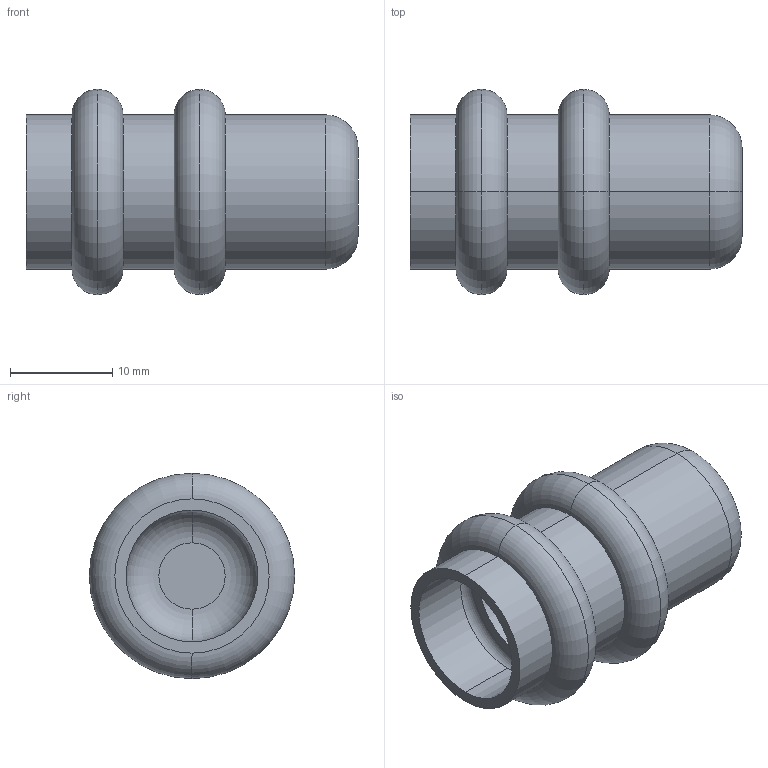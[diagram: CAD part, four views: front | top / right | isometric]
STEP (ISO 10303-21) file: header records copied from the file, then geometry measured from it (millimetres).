
FILE_DESCRIPTION(('starvars output'),'1');
FILE_NAME('cv20240422105047000011497.stp','10:50:48 2024/04/22',('Thomas Industrial Network Germany GmbH'),(' '),'Spatial InterOp 3D',' ',' ');
FILE_SCHEMA(('AUTOMOTIVE_DESIGN { 1 0 10303 214 3 1 1 }'));
Length unit declared in the file: millimetre
Products named in the file (1): 1
Bounding box: 32.5 x 20.1 x 20.1 mm (x, y, z)
Volume: 2328.1 mm3; surface area: 3855.1 mm2
Topology: 1 solids, 1 shells, 39 faces, 76 edges, 44 vertices
Faces by surface type: torus 20, cylinder 12, plane 7
Entity records: 1350 total; most frequent: DIRECTION 220, CARTESIAN_POINT 160, ORIENTED_EDGE 152, AXIS2_PLACEMENT_3D 104, EDGE_CURVE 76, CIRCLE 64, EDGE_LOOP 44, VERTEX_POINT 44
